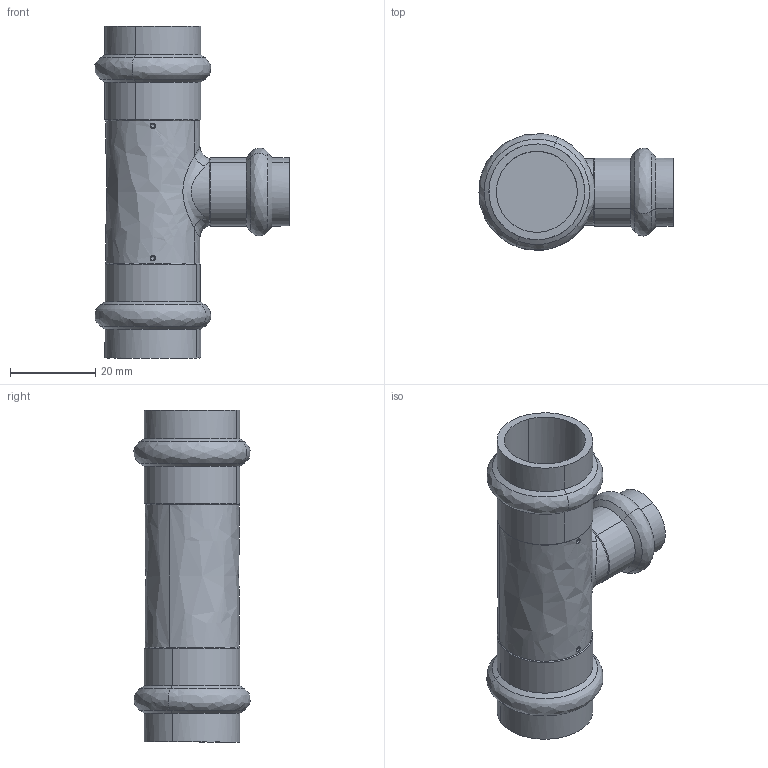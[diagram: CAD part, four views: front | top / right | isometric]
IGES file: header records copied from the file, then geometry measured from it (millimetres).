
Start section: 3D InterOp IGES (Version 25 0 1), Spatial Corp. Copyright (c) 1999-2007.
Global section: file name: pim0004517.igs; native system: Spatial Corp.; preprocessor: 3D InterOp ACIS/IGES; author: Cad-Pim; organization: TransMagic, Inc.; date: 20150430.084332; units: millimetre
Bounding box: 45.58 x 27.3 x 78 mm (x, y, z)
Volume: 22440.9 mm3; surface area: 11361 mm2
Topology: 1 solids, 1 shells, 72 faces, 190 edges, 127 vertices
Faces by surface type: bspline 36, cone 18, cylinder 18
